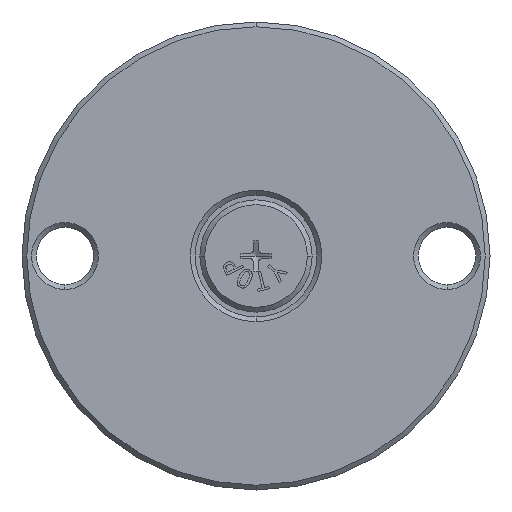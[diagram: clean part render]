
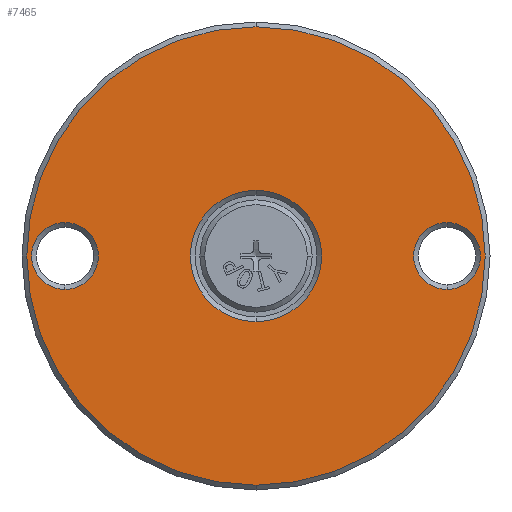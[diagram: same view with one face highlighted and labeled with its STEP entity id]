
A CAD part, front view. The second image highlights one B-rep face of the part: STEP entity #7465.
In plain terms, the highlighted planar face has unit normal (0, -1, 0).
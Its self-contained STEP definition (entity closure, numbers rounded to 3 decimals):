
#63 = DIRECTION ( 'NONE',  ( 0., 0., 1. ) ) ;
#64 = EDGE_LOOP ( 'NONE', ( #1477, #3557 ) ) ;
#127 = EDGE_LOOP ( 'NONE', ( #8038, #5663 ) ) ;
#144 = CIRCLE ( 'NONE', #963, 13.75 ) ;
#271 = CARTESIAN_POINT ( 'NONE',  ( -40., 0., 0. ) ) ;
#360 = DIRECTION ( 'NONE',  ( 0., 0., 1. ) ) ;
#576 = EDGE_CURVE ( 'NONE', #8320, #7786, #1716, .T. ) ;
#609 = AXIS2_PLACEMENT_3D ( 'NONE', #271, #3548, #5470 ) ;
#897 = ORIENTED_EDGE ( 'NONE', *, *, #4248, .T. ) ;
#963 = AXIS2_PLACEMENT_3D ( 'NONE', #3529, #5452, #3599 ) ;
#1145 = CARTESIAN_POINT ( 'NONE',  ( 49., 0., 0. ) ) ;
#1166 = ORIENTED_EDGE ( 'NONE', *, *, #576, .T. ) ;
#1338 = CARTESIAN_POINT ( 'NONE',  ( 0., 0., 0. ) ) ;
#1477 = ORIENTED_EDGE ( 'NONE', *, *, #1591, .T. ) ;
#1543 = ORIENTED_EDGE ( 'NONE', *, *, #1882, .T. ) ;
#1575 = CIRCLE ( 'NONE', #1933, 48. ) ;
#1591 = EDGE_CURVE ( 'NONE', #2550, #6180, #6243, .T. ) ;
#1641 = FACE_BOUND ( 'NONE', #64, .T. ) ;
#1716 = CIRCLE ( 'NONE', #6420, 7. ) ;
#1804 = DIRECTION ( 'NONE',  ( 0., 1., 0. ) ) ;
#1882 = EDGE_CURVE ( 'NONE', #7786, #8320, #4321, .T. ) ;
#1933 = AXIS2_PLACEMENT_3D ( 'NONE', #1338, #3964, #5849 ) ;
#2550 = VERTEX_POINT ( 'NONE', #4244 ) ;
#2731 = EDGE_LOOP ( 'NONE', ( #1166, #1543 ) ) ;
#2752 = FACE_BOUND ( 'NONE', #2731, .T. ) ;
#2759 = CIRCLE ( 'NONE', #6685, 48. ) ;
#2817 = DIRECTION ( 'NONE',  ( 0., 0., 1. ) ) ;
#3020 = EDGE_CURVE ( 'NONE', #6180, #2550, #6935, .T. ) ;
#3027 = CARTESIAN_POINT ( 'NONE',  ( 0., 0., -13.75 ) ) ;
#3060 = VERTEX_POINT ( 'NONE', #7207 ) ;
#3112 = EDGE_CURVE ( 'NONE', #7624, #7694, #1575, .T. ) ;
#3304 = DIRECTION ( 'NONE',  ( 0., 0., 1. ) ) ;
#3384 = DIRECTION ( 'NONE',  ( 0., 1., 0. ) ) ;
#3478 = CIRCLE ( 'NONE', #6412, 13.75 ) ;
#3529 = CARTESIAN_POINT ( 'NONE',  ( 0., 0., 0. ) ) ;
#3548 = DIRECTION ( 'NONE',  ( 0., 1., 0. ) ) ;
#3557 = ORIENTED_EDGE ( 'NONE', *, *, #3020, .T. ) ;
#3599 = DIRECTION ( 'NONE',  ( 0., 0., 1. ) ) ;
#3964 = DIRECTION ( 'NONE',  ( 0., -1., 0. ) ) ;
#4152 = CARTESIAN_POINT ( 'NONE',  ( 40., 0., 0. ) ) ;
#4244 = CARTESIAN_POINT ( 'NONE',  ( -40., 0., -7. ) ) ;
#4248 = EDGE_CURVE ( 'NONE', #3060, #4888, #3478, .T. ) ;
#4299 = CARTESIAN_POINT ( 'NONE',  ( -40., 0., 7. ) ) ;
#4321 = CIRCLE ( 'NONE', #7683, 7. ) ;
#4764 = DIRECTION ( 'NONE',  ( 0., 1., 0. ) ) ;
#4888 = VERTEX_POINT ( 'NONE', #3027 ) ;
#5279 = CARTESIAN_POINT ( 'NONE',  ( 0., 0., -48. ) ) ;
#5302 = DIRECTION ( 'NONE',  ( 0., -1., 0. ) ) ;
#5319 = EDGE_CURVE ( 'NONE', #4888, #3060, #144, .T. ) ;
#5452 = DIRECTION ( 'NONE',  ( 0., 1., 0. ) ) ;
#5470 = DIRECTION ( 'NONE',  ( 0., 0., 1. ) ) ;
#5635 = PLANE ( 'NONE',  #6223 ) ;
#5663 = ORIENTED_EDGE ( 'NONE', *, *, #3112, .T. ) ;
#5711 = DIRECTION ( 'NONE',  ( 0., 0., 1. ) ) ;
#5849 = DIRECTION ( 'NONE',  ( 0., 0., 1. ) ) ;
#5960 = EDGE_LOOP ( 'NONE', ( #6971, #897 ) ) ;
#5974 = FACE_BOUND ( 'NONE', #5960, .T. ) ;
#6037 = DIRECTION ( 'NONE',  ( 0., 0., 1. ) ) ;
#6049 = CARTESIAN_POINT ( 'NONE',  ( 40., 0., -7. ) ) ;
#6129 = CARTESIAN_POINT ( 'NONE',  ( 0., 0., 48. ) ) ;
#6180 = VERTEX_POINT ( 'NONE', #4299 ) ;
#6223 = AXIS2_PLACEMENT_3D ( 'NONE', #1145, #1804, #5711 ) ;
#6243 = CIRCLE ( 'NONE', #7960, 7. ) ;
#6408 = EDGE_CURVE ( 'NONE', #7694, #7624, #2759, .T. ) ;
#6412 = AXIS2_PLACEMENT_3D ( 'NONE', #7781, #7149, #63 ) ;
#6420 = AXIS2_PLACEMENT_3D ( 'NONE', #4152, #6706, #6037 ) ;
#6545 = CARTESIAN_POINT ( 'NONE',  ( 0., 0., 0. ) ) ;
#6685 = AXIS2_PLACEMENT_3D ( 'NONE', #6545, #5302, #3304 ) ;
#6706 = DIRECTION ( 'NONE',  ( 0., 1., 0. ) ) ;
#6935 = CIRCLE ( 'NONE', #609, 7. ) ;
#6971 = ORIENTED_EDGE ( 'NONE', *, *, #5319, .T. ) ;
#7149 = DIRECTION ( 'NONE',  ( 0., 1., 0. ) ) ;
#7207 = CARTESIAN_POINT ( 'NONE',  ( 0., 0., 13.75 ) ) ;
#7372 = CARTESIAN_POINT ( 'NONE',  ( 40., 0., 7. ) ) ;
#7465 = ADVANCED_FACE ( 'NONE', ( #2752, #1641, #8327, #5974 ), #5635, .F. ) ;
#7624 = VERTEX_POINT ( 'NONE', #5279 ) ;
#7683 = AXIS2_PLACEMENT_3D ( 'NONE', #7933, #3384, #2817 ) ;
#7694 = VERTEX_POINT ( 'NONE', #6129 ) ;
#7781 = CARTESIAN_POINT ( 'NONE',  ( 0., 0., 0. ) ) ;
#7786 = VERTEX_POINT ( 'NONE', #7372 ) ;
#7933 = CARTESIAN_POINT ( 'NONE',  ( 40., 0., 0. ) ) ;
#7960 = AXIS2_PLACEMENT_3D ( 'NONE', #8062, #4764, #360 ) ;
#8038 = ORIENTED_EDGE ( 'NONE', *, *, #6408, .T. ) ;
#8062 = CARTESIAN_POINT ( 'NONE',  ( -40., 0., 0. ) ) ;
#8320 = VERTEX_POINT ( 'NONE', #6049 ) ;
#8327 = FACE_OUTER_BOUND ( 'NONE', #127, .T. ) ;
